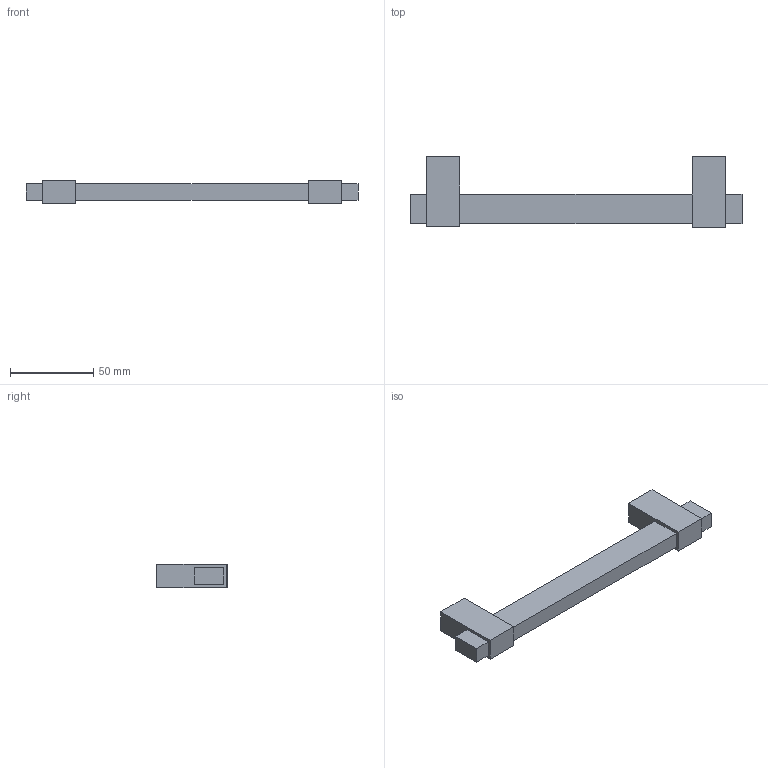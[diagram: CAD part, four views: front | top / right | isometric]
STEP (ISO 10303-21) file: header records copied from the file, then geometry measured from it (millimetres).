
FILE_DESCRIPTION( ( '' ), '1' );
FILE_NAME( 'D:/1.AUTOCAD EXPORT/Group 10/sheet_10_1/9071820.stp', '2013-10-17T06:07:16', ( '' ), ( '' ), ' ', ' ', ' ' );
FILE_SCHEMA( ( 'automotive_design' ) );
Length unit declared in the file: millimetre
Products named in the file (1): 1
Bounding box: 200 x 42.5 x 14 mm (x, y, z)
Volume: 52258.9 mm3; surface area: 15667.1 mm2
Topology: 1 solids, 1 shells, 32 faces, 72 edges, 48 vertices
Faces by surface type: plane 28, cylinder 4
Entity records: 1764 total; most frequent: STYLED_ITEM 153, PRESENTATION_STYLE_ASSIGNMENT 153, CARTESIAN_POINT 153, COLOUR_RGB 153, DIRECTION 146, ORIENTED_EDGE 144, EDGE_CURVE 72, CURVE_STYLE 72
